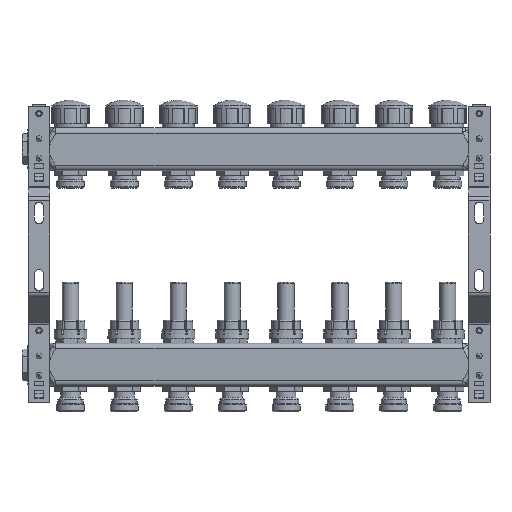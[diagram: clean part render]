
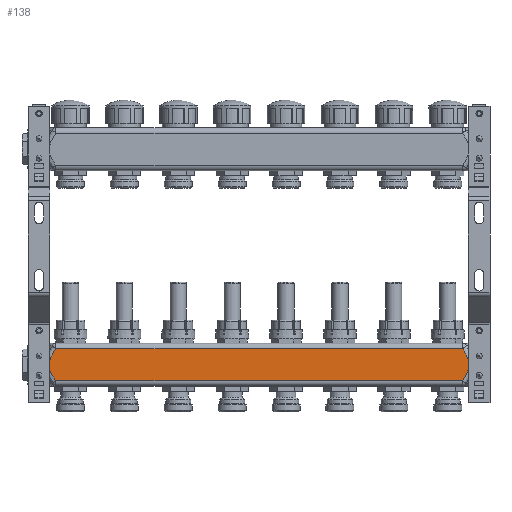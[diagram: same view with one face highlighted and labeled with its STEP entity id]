
A CAD part, front view. The second image highlights one B-rep face of the part: STEP entity #138.
In plain terms, the highlighted planar face has unit normal (0, -1, 0).
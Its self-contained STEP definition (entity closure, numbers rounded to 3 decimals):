
#138=ADVANCED_FACE('',(#2953),#2955,.T.);
#2953=FACE_BOUND('',#2954,.T.);
#2954=EDGE_LOOP('',(#16726,#16727,#16728,#16729));
#2955=PLANE('',#2956);
#2956=AXIS2_PLACEMENT_3D('',#2957,#2958,#2959);
#2957=CARTESIAN_POINT('',(1.7,46.5,-219.65));
#2958=DIRECTION('',(0.,-1.,0.));
#2959=DIRECTION('',(0.,0.,-1.));
#16726=ORIENTED_EDGE('',*,*,#24873,.T.);
#16727=ORIENTED_EDGE('',*,*,#24874,.F.);
#16728=ORIENTED_EDGE('',*,*,#24594,.T.);
#16729=ORIENTED_EDGE('',*,*,#24875,.T.);
#24594=EDGE_CURVE('',#28902,#28900,#28903,.T.);
#24873=EDGE_CURVE('',#29371,#29372,#29373,.T.);
#24874=EDGE_CURVE('',#28902,#29372,#29374,.T.);
#24875=EDGE_CURVE('',#28900,#29371,#29375,.T.);
#28900=VERTEX_POINT('',#37907);
#28902=VERTEX_POINT('',#37912);
#28903=B_SPLINE_CURVE_WITH_KNOTS('',3,
(#37913,#37914,#37915,#37916,#37917,#37918,#37919,#37920,#37921,#37922,#37923,#37924,
#37925,#37926,#37927,#37928,#37929,#37930,#37931,#37932,#37933,#37934,#37935,#37936),
.UNSPECIFIED.,.F.,.F.,
(4,1,1,1,1,1,1,1,1,1,1,1,1,1,1,1,1,1,1,1,1,4),
(0.,0.066,0.123,0.171,0.221,0.271,
0.322,0.369,0.413,0.45,0.485,
0.521,0.557,0.597,0.64,0.687,
0.738,0.789,0.841,0.891,0.945,
1.),
.UNSPECIFIED.);
#29371=VERTEX_POINT('',#40329);
#29372=VERTEX_POINT('',#40330);
#29373=B_SPLINE_CURVE_WITH_KNOTS('',3,
(#40331,#40332,#40333,#40334,#40335,#40336,#40337,#40338,#40339,#40340,#40341,#40342,
#40343,#40344,#40345,#40346,#40347,#40348,#40349,#40350,#40351,#40352,#40353,#40354),
.UNSPECIFIED.,.F.,.F.,
(4,1,1,1,1,1,1,1,1,1,1,1,1,1,1,1,1,1,1,1,1,4),
(0.,0.066,0.123,0.171,0.221,0.271,
0.322,0.369,0.413,0.45,0.485,
0.521,0.557,0.597,0.64,0.687,
0.738,0.789,0.841,0.891,0.945,
1.),
.UNSPECIFIED.);
#29374=LINE('',#40355,#40356);
#29375=LINE('',#40358,#40359);
#37907=CARTESIAN_POINT('',(25.634,46.5,-254.65));
#37912=CARTESIAN_POINT('',(25.634,46.5,-224.65));
#37913=CARTESIAN_POINT('',(25.634,46.5,-224.65));
#37914=CARTESIAN_POINT('',(25.196,46.5,-225.269));
#37915=CARTESIAN_POINT('',(24.401,46.5,-226.43));
#37916=CARTESIAN_POINT('',(23.362,46.5,-228.064));
#37917=CARTESIAN_POINT('',(22.485,46.5,-229.562));
#37918=CARTESIAN_POINT('',(21.717,46.5,-231.008));
#37919=CARTESIAN_POINT('',(21.012,46.5,-232.516));
#37920=CARTESIAN_POINT('',(20.421,46.5,-234.022));
#37921=CARTESIAN_POINT('',(19.968,46.5,-235.487));
#37922=CARTESIAN_POINT('',(19.669,46.5,-236.817));
#37923=CARTESIAN_POINT('',(19.494,46.5,-238.033));
#37924=CARTESIAN_POINT('',(19.414,46.5,-239.176));
#37925=CARTESIAN_POINT('',(19.421,46.5,-240.315));
#37926=CARTESIAN_POINT('',(19.518,46.5,-241.495));
#37927=CARTESIAN_POINT('',(19.72,46.5,-242.746));
#37928=CARTESIAN_POINT('',(20.047,46.5,-244.096));
#37929=CARTESIAN_POINT('',(20.52,46.5,-245.553));
#37930=CARTESIAN_POINT('',(21.134,46.5,-247.064));
#37931=CARTESIAN_POINT('',(21.87,46.5,-248.596));
#37932=CARTESIAN_POINT('',(22.685,46.5,-250.094));
#37933=CARTESIAN_POINT('',(23.586,46.5,-251.598));
#37934=CARTESIAN_POINT('',(24.565,46.5,-253.112));
#37935=CARTESIAN_POINT('',(25.27,46.5,-254.135));
#37936=CARTESIAN_POINT('',(25.634,46.5,-254.65));
#40329=CARTESIAN_POINT('',(402.766,46.5,-254.65));
#40330=CARTESIAN_POINT('',(402.766,46.5,-224.65));
#40331=CARTESIAN_POINT('',(402.766,46.5,-254.65));
#40332=CARTESIAN_POINT('',(403.204,46.5,-254.031));
#40333=CARTESIAN_POINT('',(403.999,46.5,-252.87));
#40334=CARTESIAN_POINT('',(405.038,46.5,-251.236));
#40335=CARTESIAN_POINT('',(405.915,46.5,-249.738));
#40336=CARTESIAN_POINT('',(406.683,46.5,-248.292));
#40337=CARTESIAN_POINT('',(407.388,46.5,-246.784));
#40338=CARTESIAN_POINT('',(407.979,46.5,-245.278));
#40339=CARTESIAN_POINT('',(408.432,46.5,-243.813));
#40340=CARTESIAN_POINT('',(408.731,46.5,-242.483));
#40341=CARTESIAN_POINT('',(408.906,46.5,-241.267));
#40342=CARTESIAN_POINT('',(408.986,46.5,-240.124));
#40343=CARTESIAN_POINT('',(408.979,46.5,-238.985));
#40344=CARTESIAN_POINT('',(408.882,46.5,-237.805));
#40345=CARTESIAN_POINT('',(408.68,46.5,-236.554));
#40346=CARTESIAN_POINT('',(408.353,46.5,-235.204));
#40347=CARTESIAN_POINT('',(407.88,46.5,-233.747));
#40348=CARTESIAN_POINT('',(407.266,46.5,-232.236));
#40349=CARTESIAN_POINT('',(406.53,46.5,-230.704));
#40350=CARTESIAN_POINT('',(405.715,46.5,-229.206));
#40351=CARTESIAN_POINT('',(404.814,46.5,-227.702));
#40352=CARTESIAN_POINT('',(403.835,46.5,-226.188));
#40353=CARTESIAN_POINT('',(403.13,46.5,-225.165));
#40354=CARTESIAN_POINT('',(402.766,46.5,-224.65));
#40355=CARTESIAN_POINT('',(25.634,46.5,-224.65));
#40356=VECTOR('',#40357,1.);
#40357=DIRECTION('',(1.,0.,0.));
#40358=CARTESIAN_POINT('',(25.634,46.5,-254.65));
#40359=VECTOR('',#40360,1.);
#40360=DIRECTION('',(1.,0.,0.));
